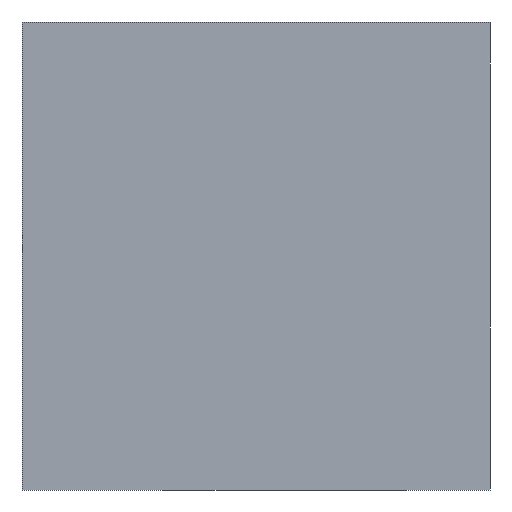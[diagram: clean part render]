
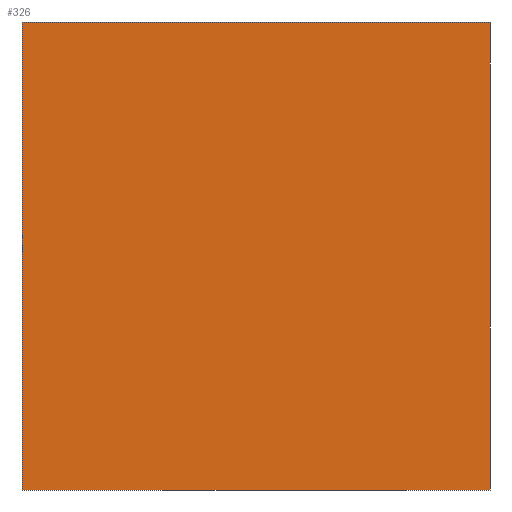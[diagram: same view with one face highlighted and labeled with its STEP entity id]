
A CAD part, front view. The second image highlights one B-rep face of the part: STEP entity #326.
In plain terms, the highlighted planar face has unit normal (0, -1, 0).
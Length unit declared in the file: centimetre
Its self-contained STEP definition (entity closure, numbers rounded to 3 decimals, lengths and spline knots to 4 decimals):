
#8 = VERTEX_POINT ( 'NONE', #364 ) ;
#14 = LINE ( 'NONE', #417, #346 ) ;
#21 = EDGE_CURVE ( 'NONE', #383, #8, #191, .T. ) ;
#26 = AXIS2_PLACEMENT_3D ( 'NONE', #333, #166, #230 ) ;
#29 = ORIENTED_EDGE ( 'NONE', *, *, #21, .T. ) ;
#59 = CARTESIAN_POINT ( 'NONE',  ( 0., 0., 1000. ) ) ;
#99 = VECTOR ( 'NONE', #190, 100. ) ;
#119 = LINE ( 'NONE', #293, #167 ) ;
#124 = DIRECTION ( 'NONE',  ( 1., 0., 0. ) ) ;
#138 = EDGE_CURVE ( 'NONE', #174, #265, #119, .T. ) ;
#166 = DIRECTION ( 'NONE',  ( 0., 1., 0. ) ) ;
#167 = VECTOR ( 'NONE', #181, 100. ) ;
#174 = VERTEX_POINT ( 'NONE', #385 ) ;
#178 = CARTESIAN_POINT ( 'NONE',  ( 0., 0., 1000. ) ) ;
#181 = DIRECTION ( 'NONE',  ( 0., 0., -1. ) ) ;
#190 = DIRECTION ( 'NONE',  ( 1., 0., 0. ) ) ;
#191 = LINE ( 'NONE', #262, #245 ) ;
#217 = LINE ( 'NONE', #178, #99 ) ;
#230 = DIRECTION ( 'NONE',  ( 0., 0., 1. ) ) ;
#236 = CARTESIAN_POINT ( 'NONE',  ( 1000., 0., 0. ) ) ;
#245 = VECTOR ( 'NONE', #324, 100. ) ;
#260 = EDGE_LOOP ( 'NONE', ( #415, #284, #356, #29 ) ) ;
#262 = CARTESIAN_POINT ( 'NONE',  ( 0., 0., 1000. ) ) ;
#265 = VERTEX_POINT ( 'NONE', #236 ) ;
#284 = ORIENTED_EDGE ( 'NONE', *, *, #138, .F. ) ;
#293 = CARTESIAN_POINT ( 'NONE',  ( 1000., 0., 1000. ) ) ;
#324 = DIRECTION ( 'NONE',  ( 0., 0., -1. ) ) ;
#326 = ADVANCED_FACE ( 'NONE', ( #430 ), #428, .F. ) ;
#333 = CARTESIAN_POINT ( 'NONE',  ( 0., 0., 1000. ) ) ;
#346 = VECTOR ( 'NONE', #124, 100. ) ;
#352 = EDGE_CURVE ( 'NONE', #383, #174, #217, .T. ) ;
#356 = ORIENTED_EDGE ( 'NONE', *, *, #352, .F. ) ;
#364 = CARTESIAN_POINT ( 'NONE',  ( 0., 0., 0. ) ) ;
#383 = VERTEX_POINT ( 'NONE', #59 ) ;
#385 = CARTESIAN_POINT ( 'NONE',  ( 1000., 0., 1000. ) ) ;
#415 = ORIENTED_EDGE ( 'NONE', *, *, #418, .T. ) ;
#417 = CARTESIAN_POINT ( 'NONE',  ( 0., 0., 0. ) ) ;
#418 = EDGE_CURVE ( 'NONE', #8, #265, #14, .T. ) ;
#428 = PLANE ( 'NONE',  #26 ) ;
#430 = FACE_OUTER_BOUND ( 'NONE', #260, .T. ) ;
